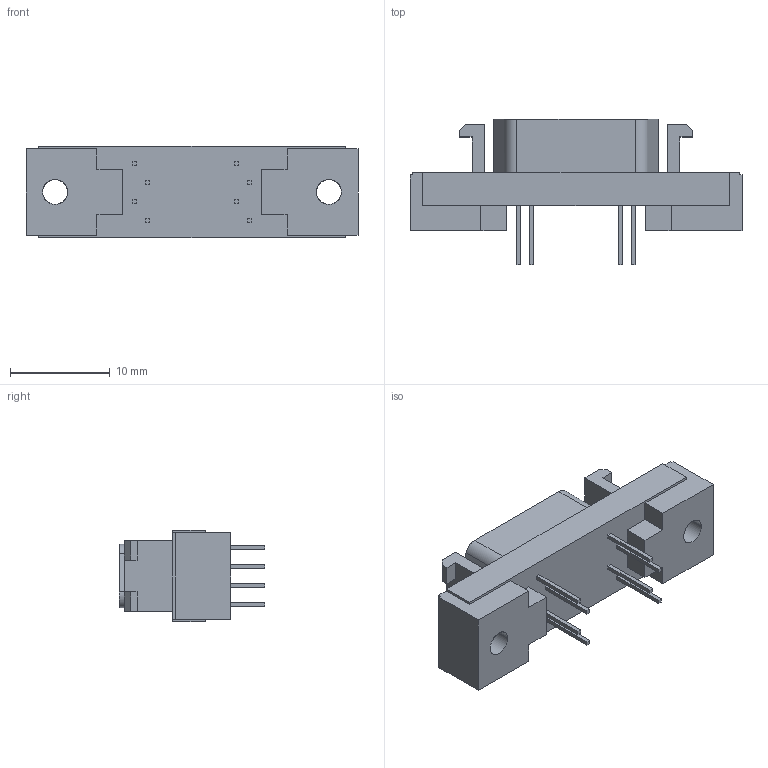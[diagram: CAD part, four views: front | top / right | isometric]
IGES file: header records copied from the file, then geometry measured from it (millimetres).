
Start section: Comment
Global section: file name: 10220-6212VCSE.igs; native system:  By Spatial Corp. IGES DAT; preprocessor: XIGES V1.0; author: Author; organization: Title; date: 20060728.084847; units: metre
Bounding box: 33.27 x 14.58 x 9.14 mm (x, y, z)
Surface area: 1823.4 mm2 (no closed solid volume)
Topology: 0 solids, 0 shells, 164 faces, 1436 edges, 1436 vertices
Faces by surface type: extrusion 154, revolution 10
